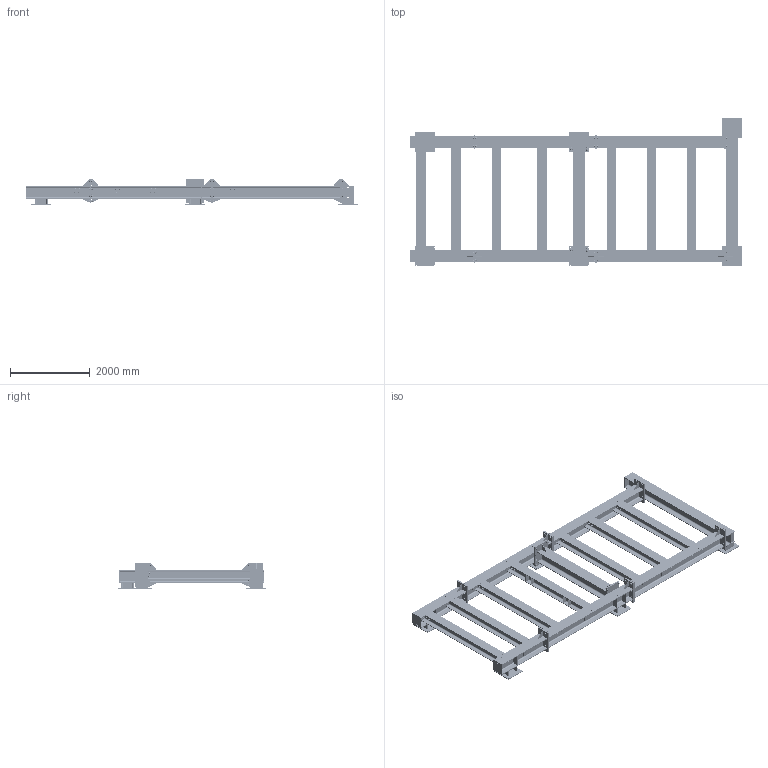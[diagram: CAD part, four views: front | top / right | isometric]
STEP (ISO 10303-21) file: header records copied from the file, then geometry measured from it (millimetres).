
FILE_DESCRIPTION (( 'STEP AP214' ), '1' );
FILE_NAME ('PIC-VIISTA2-010.STEP', '2024-09-20T13:46:45', ( '' ), ( '' ), 'SwSTEP 2.0', 'SolidWorks 2017', '' );
FILE_SCHEMA (( 'AUTOMOTIVE_DESIGN' ));
Length unit declared in the file: millimetre
Products named in the file (19): Z-M12 ASSY2_M20-30; PIC-VIISTA2-012_gousset<Brut d''usinage>; PIC-VIISTA2-011_3-1<Brut d''usinage>; z_NUT_H_NUT H M 20; z_Washer_WASHER M 27; PIC-VIISTA2-011_4<Brut d''usinage>; Z-din_en_24018_m20x100_70; Z-2021027x80; PIC-VIISTA2-011_2-2<Brut d''usinage>; z_Washer_WASHER M 20; PIC-VIISTA2-013; PIC-VIISTA2-011_2<Brut d''usinage>; Z-M12 ASSY2_M20-34; Z-M12 ASSY2_m27-40; PIC-VIISTA2-010; PIC-VIISTA2-012_D‚faut<Brut d''usinage>; PIC-VIISTA2-011-2_4<Brut d''usinage>; PIC-VIISTA2-011_1<Brut d''usinage>; z_NUT_H_NUT H M 27
Assembly tree (273 placements, depth 3):
  PIC-VIISTA2-010
    PIC-VIISTA2-011_1<Brut d''usinage>  x2
    PIC-VIISTA2-011_2-2<Brut d''usinage>
    PIC-VIISTA2-011_3-1<Brut d''usinage>  x2
    PIC-VIISTA2-011_4<Brut d''usinage>
    PIC-VIISTA2-011_2<Brut d''usinage>
    PIC-VIISTA2-012_D‚faut<Brut d''usinage>  x6
    PIC-VIISTA2-012_gousset<Brut d''usinage>
    PIC-VIISTA2-011-2_4<Brut d''usinage>
    Z-M12 ASSY2_M20-30  x112
      z_Washer_WASHER M 20
      z_NUT_H_NUT H M 20
      Z-din_en_24018_m20x100_70
    Z-M12 ASSY2_M20-34  x56
      z_Washer_WASHER M 20
      z_NUT_H_NUT H M 20
      Z-din_en_24018_m20x100_70
    Z-M12 ASSY2_m27-40  x64
      z_Washer_WASHER M 27
      z_NUT_H_NUT H M 27
      Z-2021027x80
    PIC-VIISTA2-013  x14
Bounding box: 8320 x 3730 x 660 mm (x, y, z)
Volume: 725582789.4 mm3; surface area: 92077581.1 mm2
Topology: 1066 solids, 1066 shells, 18377 faces, 41736 edges, 26148 vertices
Faces by surface type: plane 7449, cylinder 5424, cone 5040, bspline 464
Entity records: 74687 total; most frequent: CARTESIAN_POINT 11860, DIRECTION 11431, ORIENTED_EDGE 10462, EDGE_CURVE 5231, AXIS2_PLACEMENT_3D 4043, VERTEX_POINT 3470, VECTOR 3345, LINE 3345
